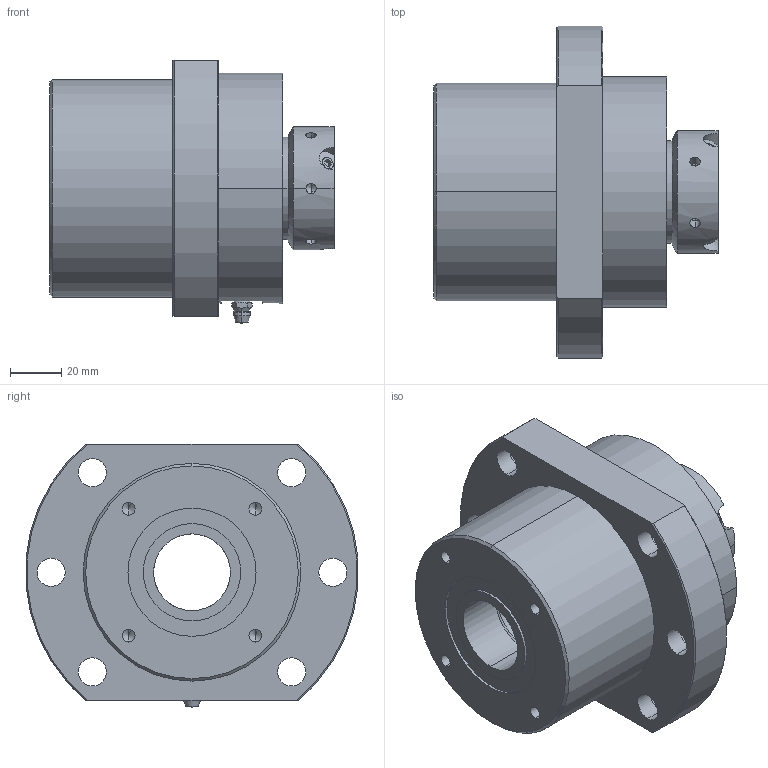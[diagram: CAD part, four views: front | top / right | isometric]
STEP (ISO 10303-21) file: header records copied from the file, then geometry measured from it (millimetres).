
FILE_DESCRIPTION (( 'STEP AP203' ), '1' );
FILE_NAME ('SWBK30G-DFD.STEP', '2018-09-15T05:01:06', ( '' ), ( '' ), 'SwSTEP 2.0', 'SolidWorks 2015', '' );
FILE_SCHEMA (( 'CONFIG_CONTROL_DESIGN' ));
Length unit declared in the file: millimetre
Products named in the file (1): SWBK30G-DFD
Bounding box: 111.05 x 129.59 x 102.9 mm (x, y, z)
Volume: 534820.2 mm3; surface area: 146553.4 mm2
Topology: 43 solids, 55 shells, 759 faces, 1849 edges, 1050 vertices
Faces by surface type: cylinder 244, plane 213, bspline 148, cone 118, torus 36
Entity records: 25292 total; most frequent: CARTESIAN_POINT 9074, DIRECTION 3408, ORIENTED_EDGE 3262, EDGE_CURVE 1631, AXIS2_PLACEMENT_3D 1423, VERTEX_POINT 1050, EDGE_LOOP 871, CIRCLE 811
